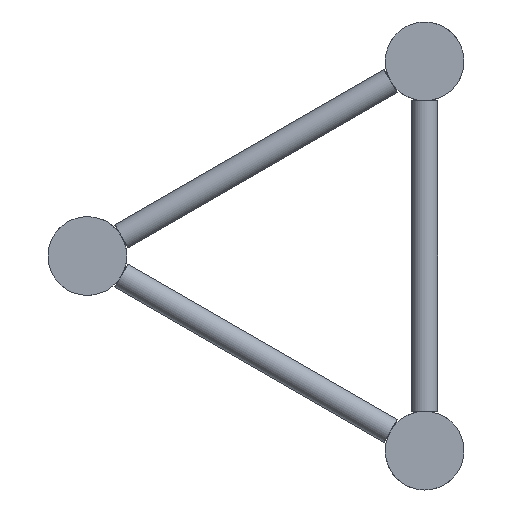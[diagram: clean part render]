
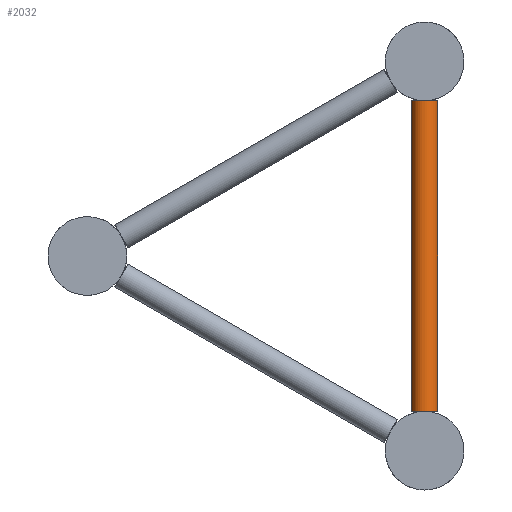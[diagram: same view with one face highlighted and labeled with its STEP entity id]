
A CAD part, left-side view. The second image highlights one B-rep face of the part: STEP entity #2032.
In plain terms, the highlighted cylindrical face has radius 8 mm (diameter 16 mm), a full revolution.
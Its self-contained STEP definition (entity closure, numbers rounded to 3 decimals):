
#71=CIRCLE('',#2308,8.);
#91=CIRCLE('',#2348,8.);
#92=CIRCLE('',#2350,8.);
#93=CIRCLE('',#2352,8.);
#211=FACE_BOUND('',#678,.T.);
#292=CYLINDRICAL_SURFACE('',#2351,8.);
#435=FACE_OUTER_BOUND('',#677,.T.);
#677=EDGE_LOOP('',(#1403,#1404));
#678=EDGE_LOOP('',(#1405,#1406));
#945=VERTEX_POINT('',#3349);
#946=VERTEX_POINT('',#3350);
#971=VERTEX_POINT('',#3410);
#972=VERTEX_POINT('',#3411);
#1105=EDGE_CURVE('',#946,#945,#71,.T.);
#1133=EDGE_CURVE('',#972,#971,#91,.T.);
#1134=EDGE_CURVE('',#945,#946,#92,.T.);
#1135=EDGE_CURVE('',#971,#972,#93,.T.);
#1403=ORIENTED_EDGE('',*,*,#1105,.T.);
#1404=ORIENTED_EDGE('',*,*,#1134,.T.);
#1405=ORIENTED_EDGE('',*,*,#1133,.T.);
#1406=ORIENTED_EDGE('',*,*,#1135,.T.);
#2032=ADVANCED_FACE('',(#435,#211),#292,.T.);
#2308=AXIS2_PLACEMENT_3D('',#3362,#2793,#2794);
#2348=AXIS2_PLACEMENT_3D('',#3434,#2881,#2882);
#2350=AXIS2_PLACEMENT_3D('',#3436,#2885,#2886);
#2351=AXIS2_PLACEMENT_3D('',#3437,#2887,#2888);
#2352=AXIS2_PLACEMENT_3D('',#3438,#2889,#2890);
#2793=DIRECTION('center_axis',(0.,0.,
1.));
#2794=DIRECTION('ref_axis',(-1.,0.,0.));
#2881=DIRECTION('center_axis',(0.,0.,
-1.));
#2882=DIRECTION('ref_axis',(-1.,0.,0.));
#2885=DIRECTION('center_axis',(0.,0.,
1.));
#2886=DIRECTION('ref_axis',(-1.,0.,0.));
#2887=DIRECTION('center_axis',(0.,0.,
1.));
#2888=DIRECTION('ref_axis',(-1.,0.,0.));
#2889=DIRECTION('center_axis',(0.,0.,
-1.));
#2890=DIRECTION('ref_axis',(-1.,0.,0.));
#3349=CARTESIAN_POINT('',(52.,0.,-214.85));
#3350=CARTESIAN_POINT('',(68.,0.,-214.85));
#3362=CARTESIAN_POINT('Origin',(60.,0.,-214.85));
#3410=CARTESIAN_POINT('',(52.,0.,-24.15));
#3411=CARTESIAN_POINT('',(68.,0.,-24.15));
#3434=CARTESIAN_POINT('Origin',(60.,0.,-24.15));
#3436=CARTESIAN_POINT('Origin',(60.,0.,-214.85));
#3437=CARTESIAN_POINT('Origin',(60.,0.,-119.5));
#3438=CARTESIAN_POINT('Origin',(60.,0.,-24.15));
